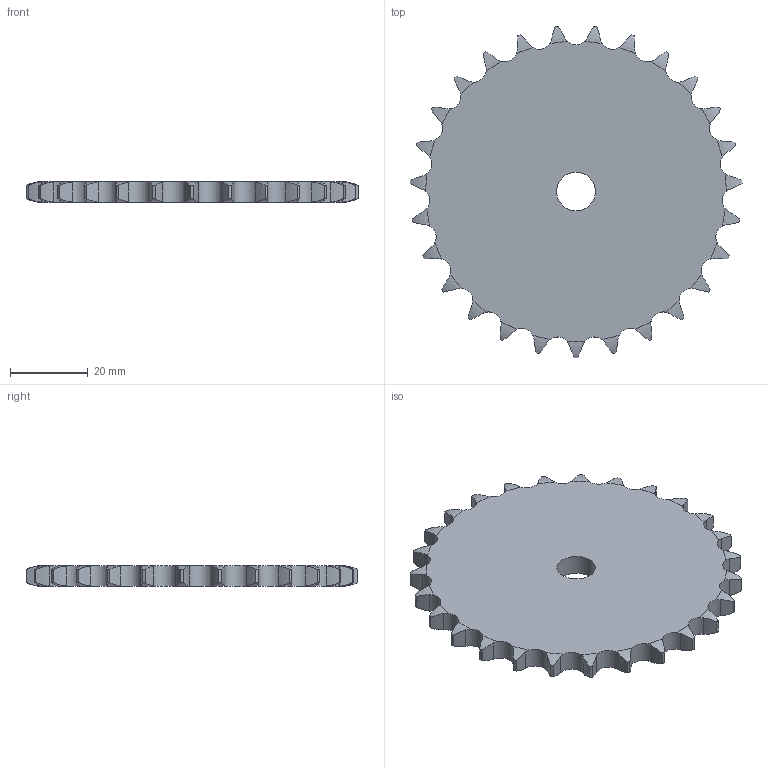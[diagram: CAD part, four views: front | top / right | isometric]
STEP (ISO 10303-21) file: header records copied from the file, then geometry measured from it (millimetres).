
FILE_DESCRIPTION((''),'2;1');
FILE_NAME('500-101-0027_PRT','2021-02-12T',('Brieden'),('Brieden'),'PRO/ENGINEER BY PARAMETRIC TECHNOLOGY CORPORATION, 2010160','PRO/ENGINEER BY PARAMETRIC TECHNOLOGY CORPORATION, 2010160','');
FILE_SCHEMA(('AUTOMOTIVE_DESIGN { 1 0 10303 214 1 1 1 1 }'));
Length unit declared in the file: millimetre
Products named in the file (1): 500-101-0027_PRT
Bounding box: 85.68 x 85.54 x 5.3 mm (x, y, z)
Volume: 25622.8 mm3; surface area: 11833.9 mm2
Topology: 1 solids, 1 shells, 166 faces, 492 edges, 328 vertices
Faces by surface type: cylinder 110, torus 54, plane 2
Entity records: 8010 total; most frequent: CARTESIAN_POINT 2279, ORIENTED_EDGE 984, DIRECTION 774, PRESENTATION_STYLE_ASSIGNMENT 493, STYLED_ITEM 493, CURVE_STYLE 492, EDGE_CURVE 492, AXIS2_PLACEMENT_3D 332
